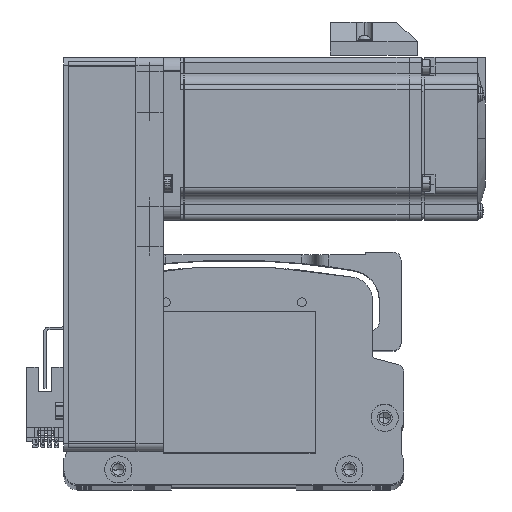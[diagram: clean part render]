
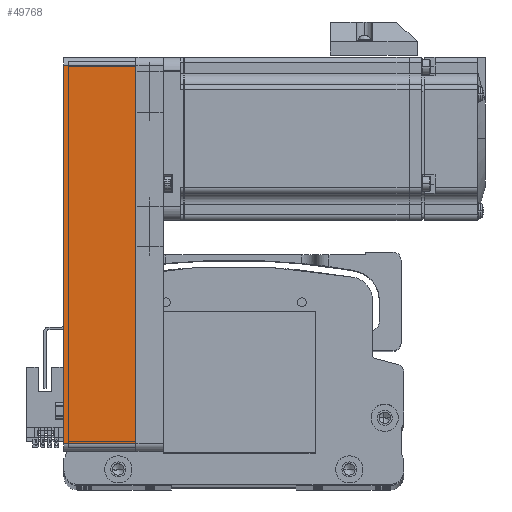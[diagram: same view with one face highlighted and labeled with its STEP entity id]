
A CAD part, top view. The second image highlights one B-rep face of the part: STEP entity #49768.
In plain terms, the highlighted planar face has unit normal (0, 0, 1) as drawn and (0, -1, 0) by its records, which use the part's own axes.
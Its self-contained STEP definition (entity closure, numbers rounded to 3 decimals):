
#218 = VERTEX_POINT ( 'NONE', #36524 ) ;
#3151 = VECTOR ( 'NONE', #64519, 1000. ) ;
#3796 = ORIENTED_EDGE ( 'NONE', *, *, #15146, .T. ) ;
#4548 = VERTEX_POINT ( 'NONE', #6137 ) ;
#6137 = CARTESIAN_POINT ( 'NONE',  ( -69.5, -30., 26.5 ) ) ;
#7407 = LINE ( 'NONE', #66374, #56839 ) ;
#8132 = CARTESIAN_POINT ( 'NONE',  ( 69.5, -30., 26.5 ) ) ;
#13664 = DIRECTION ( 'NONE',  ( 1., 0., 0. ) ) ;
#14633 = DIRECTION ( 'NONE',  ( 0., 0., 1. ) ) ;
#15146 = EDGE_CURVE ( 'NONE', #4548, #22539, #20246, .T. ) ;
#15814 = LINE ( 'NONE', #52238, #32880 ) ;
#16799 = CARTESIAN_POINT ( 'NONE',  ( -69.5, -30., 0. ) ) ;
#19441 = CARTESIAN_POINT ( 'NONE',  ( -69.5, -30., 26.5 ) ) ;
#20246 = LINE ( 'NONE', #19441, #3151 ) ;
#22539 = VERTEX_POINT ( 'NONE', #16799 ) ;
#25111 = CARTESIAN_POINT ( 'NONE',  ( 72.5, -30., 26.5 ) ) ;
#31534 = VECTOR ( 'NONE', #14633, 1000. ) ;
#31593 = DIRECTION ( 'NONE',  ( -1., 0., 0. ) ) ;
#32880 = VECTOR ( 'NONE', #13664, 1000. ) ;
#36524 = CARTESIAN_POINT ( 'NONE',  ( 69.5, -30., 0. ) ) ;
#40771 = EDGE_CURVE ( 'NONE', #4548, #44042, #7407, .T. ) ;
#44042 = VERTEX_POINT ( 'NONE', #75051 ) ;
#46874 = AXIS2_PLACEMENT_3D ( 'NONE', #25111, #70188, #31593 ) ;
#49138 = ORIENTED_EDGE ( 'NONE', *, *, #69655, .T. ) ;
#49768 = ADVANCED_FACE ( 'NONE', ( #75558 ), #63468, .F. ) ;
#51422 = EDGE_CURVE ( 'NONE', #22539, #218, #15814, .T. ) ;
#52238 = CARTESIAN_POINT ( 'NONE',  ( 72.5, -30., 0. ) ) ;
#56839 = VECTOR ( 'NONE', #72810, 1000. ) ;
#63468 = PLANE ( 'NONE',  #46874 ) ;
#64519 = DIRECTION ( 'NONE',  ( 0., 0., -1. ) ) ;
#66374 = CARTESIAN_POINT ( 'NONE',  ( 72.5, -30., 26.5 ) ) ;
#69395 = EDGE_LOOP ( 'NONE', ( #71462, #49138, #79692, #3796 ) ) ;
#69655 = EDGE_CURVE ( 'NONE', #218, #44042, #82902, .T. ) ;
#70188 = DIRECTION ( 'NONE',  ( 0., 1., 0. ) ) ;
#71462 = ORIENTED_EDGE ( 'NONE', *, *, #51422, .T. ) ;
#72810 = DIRECTION ( 'NONE',  ( 1., 0., 0. ) ) ;
#75051 = CARTESIAN_POINT ( 'NONE',  ( 69.5, -30., 26.5 ) ) ;
#75558 = FACE_OUTER_BOUND ( 'NONE', #69395, .T. ) ;
#79692 = ORIENTED_EDGE ( 'NONE', *, *, #40771, .F. ) ;
#82902 = LINE ( 'NONE', #8132, #31534 ) ;
